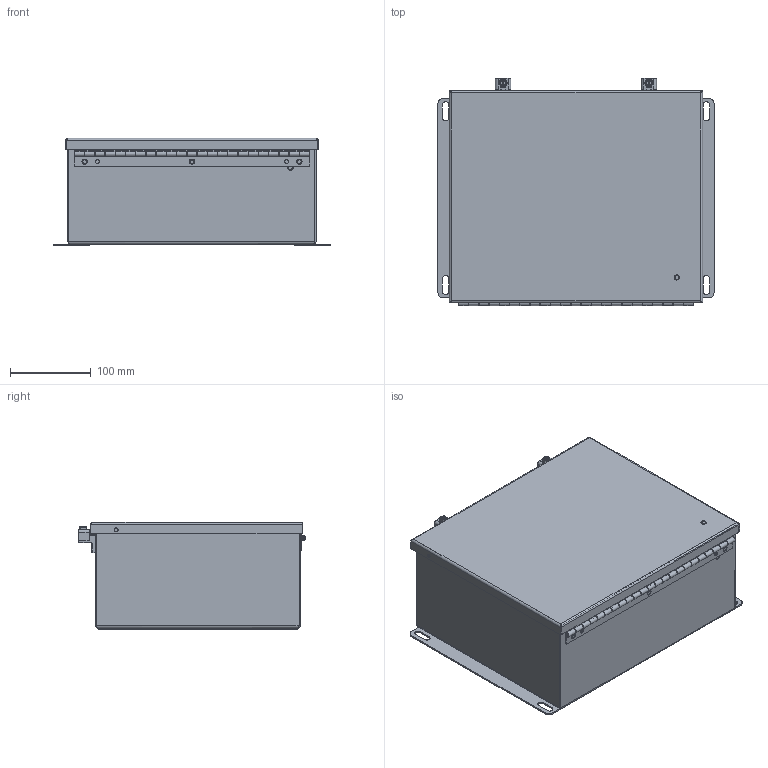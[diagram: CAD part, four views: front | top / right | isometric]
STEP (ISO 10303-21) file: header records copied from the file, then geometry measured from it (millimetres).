
FILE_DESCRIPTION((''),'2;1');
FILE_NAME('MODEL-330_ASM','2021-06-01T16:17:34',('JoshI'),('SAGINAW CONTROL & ENGINEERING'),'CREO PARAMETRIC BY PTC INC, 2017260','CREO PARAMETRIC BY PTC INC, 2017260','');
FILE_SCHEMA(('AUTOMOTIVE_DESIGN { 1 0 10303 214 1 1 1 1 }'));
Length unit declared in the file: inch
Products named in the file (22): MODEL-330-BDY; MODEL-330-DR; 100063; 100009; 125826-BASE; 125826-PEM-STUD; 125826-CLAMP; 125826-BOLT; 125826_ASM; 100897; 102179; 122255; MODEL-330-HNG-PN; MODEL-330-HNG-BX; MODEL-330-HNG-DR; 100062; MODEL-330-HNG_ASM; MODEL-330-GSKT; CH-ELJ_SUBPANEL; 102479; CH-ELJ_SUBPANEL-SUBASSEMBLY_ASM; MODEL-330_ASM
Assembly tree (36 placements, depth 3):
  MODEL-330_ASM
    MODEL-330-BDY
    MODEL-330-DR
    100063  x2
    100009  x4
    125826_ASM  x2
      125826-BASE
      125826-PEM-STUD
      125826-CLAMP
      125826-BOLT
    100897  x5
    102179  x2
    122255
    MODEL-330-HNG_ASM
      MODEL-330-HNG-PN
      MODEL-330-HNG-BX
      MODEL-330-HNG-DR
      100062  x3
    MODEL-330-GSKT
    CH-ELJ_SUBPANEL-SUBASSEMBLY_ASM
      CH-ELJ_SUBPANEL
      102479  x4
Bounding box: 342.9 x 282.05 x 133.73 mm (x, y, z)
Volume: 729099.6 mm3; surface area: 894050.8 mm2
Topology: 35 solids, 35 shells, 1855 faces, 4568 edges, 2736 vertices
Faces by surface type: plane 819, cylinder 606, bspline 214, torus 110, sphere 56, cone 50
Entity records: 58030 total; most frequent: CARTESIAN_POINT 18861, ORIENTED_EDGE 5394, DIRECTION 5305, PRESENTATION_STYLE_ASSIGNMENT 2714, STYLED_ITEM 2714, CURVE_STYLE 2697, EDGE_CURVE 2697, AXIS2_PLACEMENT_3D 1846
